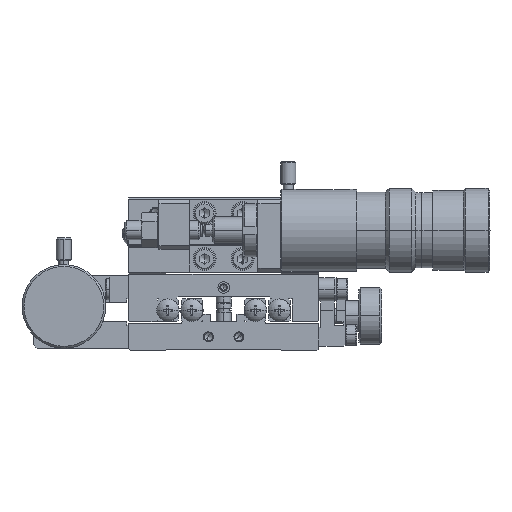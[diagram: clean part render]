
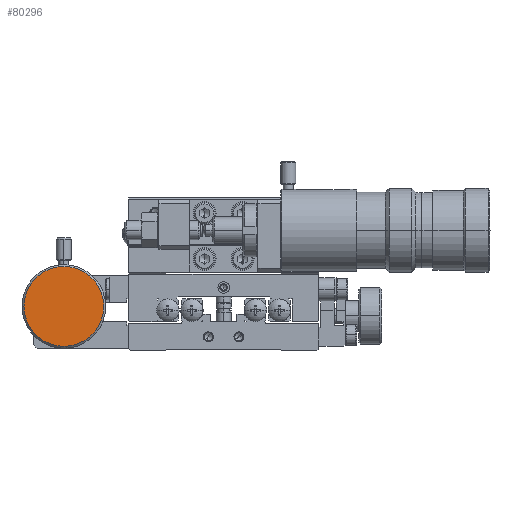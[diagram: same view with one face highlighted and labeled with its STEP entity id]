
A CAD part, front view. The second image highlights one B-rep face of the part: STEP entity #80296.
In plain terms, the highlighted planar face has unit normal (0, -1, 0).
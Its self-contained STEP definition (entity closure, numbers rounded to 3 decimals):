
#33222 = CARTESIAN_POINT ( 'NONE',  ( -31.5, -70., -8.5 ) ) ;
#33223 = CARTESIAN_POINT ( 'NONE',  ( -52.5, -70., -8.5 ) ) ;
#33224 = DIRECTION ( 'NONE',  ( -1., 0., 0. ) ) ;
#33225 = DIRECTION ( 'NONE',  ( 0., 1., 0. ) ) ;
#33226 = CARTESIAN_POINT ( 'NONE',  ( -42., -70., -8.5 ) ) ;
#33227 = AXIS2_PLACEMENT_3D ( 'NONE', #33226, #33225, #33224 ) ;
#33228 = CIRCLE ( 'NONE', #33227, 10.5 ) ;
#54965 = DIRECTION ( 'NONE',  ( -1., 0., 0. ) ) ;
#54967 = DIRECTION ( 'NONE',  ( 0., 1., 0. ) ) ;
#54969 = CARTESIAN_POINT ( 'NONE',  ( -42., -70., -8.5 ) ) ;
#54970 = AXIS2_PLACEMENT_3D ( 'NONE', #54969, #54967, #54965 ) ;
#54972 = CIRCLE ( 'NONE', #54970, 10.5 ) ;
#54978 = DIRECTION ( 'NONE',  ( -1., 0., 0. ) ) ;
#54979 = DIRECTION ( 'NONE',  ( 0., 1., 0. ) ) ;
#54980 = CARTESIAN_POINT ( 'NONE',  ( -42., -70., -8.5 ) ) ;
#54982 = AXIS2_PLACEMENT_3D ( 'NONE', #54980, #54979, #54978 ) ;
#54983 = PLANE ( 'NONE',  #54982 ) ;
#54988 = FACE_OUTER_BOUND ( 'NONE', #80297, .T. ) ;
#66745 = EDGE_CURVE ( 'NONE', #66746, #66747, #33228, .T. ) ;
#66746 = VERTEX_POINT ( 'NONE', #33223 ) ;
#66747 = VERTEX_POINT ( 'NONE', #33222 ) ;
#80296 = ADVANCED_FACE ( 'NONE', ( #54988 ), #54983, .F. ) ;
#80297 = EDGE_LOOP ( 'NONE', ( #80298, #80299 ) ) ;
#80298 = ORIENTED_EDGE ( 'NONE', *, *, #66745, .F. ) ;
#80299 = ORIENTED_EDGE ( 'NONE', *, *, #80301, .F. ) ;
#80301 = EDGE_CURVE ( 'NONE', #66747, #66746, #54972, .T. ) ;
